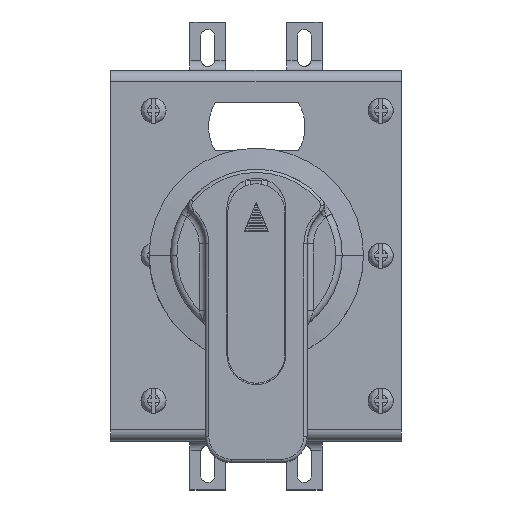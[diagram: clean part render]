
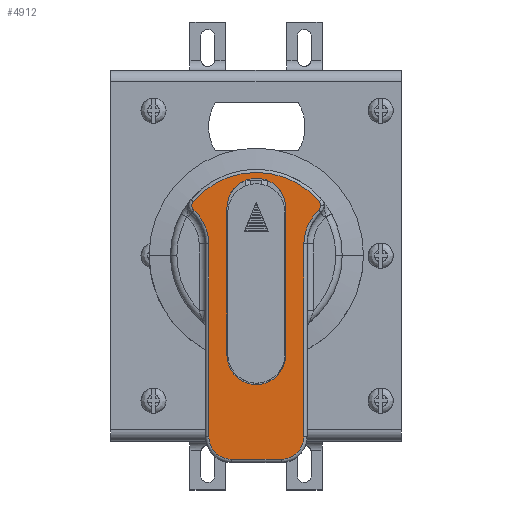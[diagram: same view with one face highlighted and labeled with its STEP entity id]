
A CAD part, top view. The second image highlights one B-rep face of the part: STEP entity #4912.
In plain terms, the highlighted planar face has unit normal (0, 0, 1) as drawn and (0, 1, 0) by its records, which use the part's own axes.
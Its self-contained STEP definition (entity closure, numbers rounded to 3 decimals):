
#319 = VERTEX_POINT ( 'NONE', #4780 ) ;
#898 = VERTEX_POINT ( 'NONE', #47509 ) ;
#1184 = DIRECTION ( 'NONE',  ( -1., 0., 0. ) ) ;
#1442 = EDGE_CURVE ( 'NONE', #19032, #53586, #57889, .T. ) ;
#1492 = CIRCLE ( 'NONE', #9303, 9.1 ) ;
#1628 = CIRCLE ( 'NONE', #57181, 2. ) ;
#2223 = CARTESIAN_POINT ( 'NONE',  ( -15.34, 33., 18. ) ) ;
#2305 = CARTESIAN_POINT ( 'NONE',  ( 0., 33., 0. ) ) ;
#2321 = DIRECTION ( 'NONE',  ( -0.741, 0., 0.672 ) ) ;
#2386 = VERTEX_POINT ( 'NONE', #39430 ) ;
#2849 = CARTESIAN_POINT ( 'NONE',  ( 31.05, 33., -9.1 ) ) ;
#3315 = ORIENTED_EDGE ( 'NONE', *, *, #7106, .F. ) ;
#4169 = CARTESIAN_POINT ( 'NONE',  ( -14.793, 33., 19.948 ) ) ;
#4320 = AXIS2_PLACEMENT_3D ( 'NONE', #28795, #66349, #12455 ) ;
#4780 = CARTESIAN_POINT ( 'NONE',  ( -16.637, 33., -19.522 ) ) ;
#4912 = ADVANCED_FACE ( 'NONE', ( #44085, #38891 ), #54872, .T. ) ;
#5842 = EDGE_CURVE ( 'NONE', #64636, #29807, #66541, .T. ) ;
#6953 = AXIS2_PLACEMENT_3D ( 'NONE', #68429, #42685, #63888 ) ;
#7054 = CARTESIAN_POINT ( 'NONE',  ( -15.34, 33., -20. ) ) ;
#7106 = EDGE_CURVE ( 'NONE', #57397, #57905, #23715, .T. ) ;
#7328 = B_SPLINE_CURVE_WITH_KNOTS ( 'NONE', 3,
 ( #24320, #66756, #19126, #4169, #67097, #62916 ),
 .UNSPECIFIED., .F., .F.,
 ( 4, 1, 1, 4 ),
 ( 0., 0.333, 0.667, 1. ),
 .UNSPECIFIED. ) ;
#7579 = EDGE_LOOP ( 'NONE', ( #11355, #50632, #16878, #59234, #14295, #50325, #38010, #56984, #60127, #35349, #22281, #58580 ) ) ;
#8876 = VECTOR ( 'NONE', #66123, 1000. ) ;
#9303 = AXIS2_PLACEMENT_3D ( 'NONE', #56457, #45676, #13691 ) ;
#9361 = CARTESIAN_POINT ( 'NONE',  ( 31.05, 33., -9.1 ) ) ;
#10613 = CARTESIAN_POINT ( 'NONE',  ( -13.859, 33., -19.344 ) ) ;
#11355 = ORIENTED_EDGE ( 'NONE', *, *, #41408, .F. ) ;
#11756 = CARTESIAN_POINT ( 'NONE',  ( -3.49, 33., 14.75 ) ) ;
#12455 = DIRECTION ( 'NONE',  ( 1., 0., 0. ) ) ;
#13299 = VERTEX_POINT ( 'NONE', #16008 ) ;
#13691 = DIRECTION ( 'NONE',  ( 0., 0., -1. ) ) ;
#14088 = ORIENTED_EDGE ( 'NONE', *, *, #60573, .F. ) ;
#14295 = ORIENTED_EDGE ( 'NONE', *, *, #46060, .F. ) ;
#14420 = AXIS2_PLACEMENT_3D ( 'NONE', #14991, #36192, #57401 ) ;
#14447 = DIRECTION ( 'NONE',  ( 0., -1., 0. ) ) ;
#14537 = CARTESIAN_POINT ( 'NONE',  ( 31.05, 33., 9.1 ) ) ;
#14991 = CARTESIAN_POINT ( 'NONE',  ( -15.34, 33., -18. ) ) ;
#15029 = CARTESIAN_POINT ( 'NONE',  ( -3.49, 33., 14.75 ) ) ;
#15097 = AXIS2_PLACEMENT_3D ( 'NONE', #2305, #15765, #51908 ) ;
#15765 = DIRECTION ( 'NONE',  ( 0., -1., 0. ) ) ;
#16008 = CARTESIAN_POINT ( 'NONE',  ( 56.35, 33., -14.75 ) ) ;
#16878 = ORIENTED_EDGE ( 'NONE', *, *, #45127, .F. ) ;
#17384 = LINE ( 'NONE', #38588, #40389 ) ;
#17883 = AXIS2_PLACEMENT_3D ( 'NONE', #2223, #40122, #29674 ) ;
#19032 = VERTEX_POINT ( 'NONE', #62999 ) ;
#19126 = CARTESIAN_POINT ( 'NONE',  ( -14.281, 33., 19.73 ) ) ;
#20386 = VECTOR ( 'NONE', #32478, 1000. ) ;
#20593 = DIRECTION ( 'NONE',  ( 1., 0., 0. ) ) ;
#21058 = EDGE_CURVE ( 'NONE', #13299, #53586, #63318, .T. ) ;
#21209 = DIRECTION ( 'NONE',  ( 0., 1., 0. ) ) ;
#21586 = DIRECTION ( 'NONE',  ( 0., 1., 0. ) ) ;
#22281 = ORIENTED_EDGE ( 'NONE', *, *, #21058, .F. ) ;
#22940 = EDGE_LOOP ( 'NONE', ( #3315, #14088, #30005, #32030 ) ) ;
#23001 = DIRECTION ( 'NONE',  ( 0., 1., 0. ) ) ;
#23044 = EDGE_CURVE ( 'NONE', #13299, #23573, #49479, .T. ) ;
#23302 = AXIS2_PLACEMENT_3D ( 'NONE', #61565, #35837, #34450 ) ;
#23573 = VERTEX_POINT ( 'NONE', #63022 ) ;
#23715 = LINE ( 'NONE', #2849, #8876 ) ;
#24320 = CARTESIAN_POINT ( 'NONE',  ( -13.855, 33., 19.34 ) ) ;
#24512 = VERTEX_POINT ( 'NONE', #14537 ) ;
#25549 = CARTESIAN_POINT ( 'NONE',  ( 63.35, 33., 7.75 ) ) ;
#25572 = DIRECTION ( 'NONE',  ( -0.649, 0., -0.761 ) ) ;
#27085 = CARTESIAN_POINT ( 'NONE',  ( -13.855, 33., 19.34 ) ) ;
#28795 = CARTESIAN_POINT ( 'NONE',  ( 0., 33., 0. ) ) ;
#28807 = EDGE_CURVE ( 'NONE', #64636, #63770, #63342, .T. ) ;
#29674 = DIRECTION ( 'NONE',  ( 0., 0., 1. ) ) ;
#29807 = VERTEX_POINT ( 'NONE', #27085 ) ;
#30005 = ORIENTED_EDGE ( 'NONE', *, *, #66039, .F. ) ;
#31288 = EDGE_CURVE ( 'NONE', #55005, #49269, #1628, .T. ) ;
#32030 = ORIENTED_EDGE ( 'NONE', *, *, #41634, .F. ) ;
#32478 = DIRECTION ( 'NONE',  ( 0., 0., -1. ) ) ;
#33096 = DIRECTION ( 'NONE',  ( 0., 0., -1. ) ) ;
#33529 = EDGE_CURVE ( 'NONE', #2386, #319, #45028, .T. ) ;
#34450 = DIRECTION ( 'NONE',  ( 0., 0., -1. ) ) ;
#35349 = ORIENTED_EDGE ( 'NONE', *, *, #1442, .T. ) ;
#35837 = DIRECTION ( 'NONE',  ( 0., -1., 0. ) ) ;
#36192 = DIRECTION ( 'NONE',  ( 0., -1., 0. ) ) ;
#36574 = AXIS2_PLACEMENT_3D ( 'NONE', #47466, #23001, #33096 ) ;
#38010 = ORIENTED_EDGE ( 'NONE', *, *, #5842, .F. ) ;
#38588 = CARTESIAN_POINT ( 'NONE',  ( -14.75, 33., 9.1 ) ) ;
#38671 = CARTESIAN_POINT ( 'NONE',  ( -14.75, 33., -9.1 ) ) ;
#38891 = FACE_BOUND ( 'NONE', #22940, .T. ) ;
#39342 = EDGE_CURVE ( 'NONE', #19032, #63770, #41420, .T. ) ;
#39430 = CARTESIAN_POINT ( 'NONE',  ( -16.637, 33., 19.522 ) ) ;
#40122 = DIRECTION ( 'NONE',  ( 0., -1., 0. ) ) ;
#40389 = VECTOR ( 'NONE', #55255, 1000. ) ;
#41226 = CARTESIAN_POINT ( 'NONE',  ( -15.34, 33., -18. ) ) ;
#41408 = EDGE_CURVE ( 'NONE', #49269, #23573, #57051, .T. ) ;
#41420 = CIRCLE ( 'NONE', #6953, 7. ) ;
#41634 = EDGE_CURVE ( 'NONE', #57905, #898, #1492, .T. ) ;
#42685 = DIRECTION ( 'NONE',  ( 0., -1., 0. ) ) ;
#43673 = AXIS2_PLACEMENT_3D ( 'NONE', #54217, #21586, #2321 ) ;
#44085 = FACE_OUTER_BOUND ( 'NONE', #7579, .T. ) ;
#44217 = VERTEX_POINT ( 'NONE', #46777 ) ;
#44366 = CIRCLE ( 'NONE', #14420, 2. ) ;
#45028 = CIRCLE ( 'NONE', #15097, 25.65 ) ;
#45127 = EDGE_CURVE ( 'NONE', #319, #55005, #44366, .T. ) ;
#45676 = DIRECTION ( 'NONE',  ( 0., 1., 0. ) ) ;
#46060 = EDGE_CURVE ( 'NONE', #44217, #2386, #46726, .T. ) ;
#46726 = CIRCLE ( 'NONE', #17883, 2. ) ;
#46777 = CARTESIAN_POINT ( 'NONE',  ( -15.34, 33., 20. ) ) ;
#46793 = AXIS2_PLACEMENT_3D ( 'NONE', #53165, #21209, #59072 ) ;
#47466 = CARTESIAN_POINT ( 'NONE',  ( -3.49, 33., 28.75 ) ) ;
#47509 = CARTESIAN_POINT ( 'NONE',  ( -14.75, 33., 9.1 ) ) ;
#49269 = VERTEX_POINT ( 'NONE', #10613 ) ;
#49479 = LINE ( 'NONE', #54024, #62112 ) ;
#50325 = ORIENTED_EDGE ( 'NONE', *, *, #53758, .F. ) ;
#50632 = ORIENTED_EDGE ( 'NONE', *, *, #31288, .F. ) ;
#51908 = DIRECTION ( 'NONE',  ( -0.649, 0., 0.761 ) ) ;
#53165 = CARTESIAN_POINT ( 'NONE',  ( 31.05, 33., 0. ) ) ;
#53586 = VERTEX_POINT ( 'NONE', #55619 ) ;
#53758 = EDGE_CURVE ( 'NONE', #29807, #44217, #7328, .T. ) ;
#54024 = CARTESIAN_POINT ( 'NONE',  ( 56.35, 33., -14.75 ) ) ;
#54217 = CARTESIAN_POINT ( 'NONE',  ( -3.49, 33., -28.75 ) ) ;
#54872 = PLANE ( 'NONE',  #4320 ) ;
#55005 = VERTEX_POINT ( 'NONE', #7054 ) ;
#55255 = DIRECTION ( 'NONE',  ( 1., 0., 0. ) ) ;
#55619 = CARTESIAN_POINT ( 'NONE',  ( 63.35, 33., -7.75 ) ) ;
#56457 = CARTESIAN_POINT ( 'NONE',  ( -14.75, 33., 0. ) ) ;
#56984 = ORIENTED_EDGE ( 'NONE', *, *, #28807, .T. ) ;
#57051 = CIRCLE ( 'NONE', #43673, 14. ) ;
#57181 = AXIS2_PLACEMENT_3D ( 'NONE', #41226, #14447, #25572 ) ;
#57397 = VERTEX_POINT ( 'NONE', #9361 ) ;
#57401 = DIRECTION ( 'NONE',  ( -0.649, 0., -0.761 ) ) ;
#57889 = LINE ( 'NONE', #25549, #20386 ) ;
#57905 = VERTEX_POINT ( 'NONE', #38671 ) ;
#58580 = ORIENTED_EDGE ( 'NONE', *, *, #23044, .T. ) ;
#59072 = DIRECTION ( 'NONE',  ( 0., 0., 1. ) ) ;
#59234 = ORIENTED_EDGE ( 'NONE', *, *, #33529, .F. ) ;
#60084 = CIRCLE ( 'NONE', #46793, 9.1 ) ;
#60127 = ORIENTED_EDGE ( 'NONE', *, *, #39342, .F. ) ;
#60573 = EDGE_CURVE ( 'NONE', #24512, #57397, #60084, .T. ) ;
#61565 = CARTESIAN_POINT ( 'NONE',  ( 56.35, 33., -7.75 ) ) ;
#62112 = VECTOR ( 'NONE', #1184, 1000. ) ;
#62916 = CARTESIAN_POINT ( 'NONE',  ( -15.34, 33., 20. ) ) ;
#62999 = CARTESIAN_POINT ( 'NONE',  ( 63.35, 33., 7.75 ) ) ;
#63022 = CARTESIAN_POINT ( 'NONE',  ( -3.49, 33., -14.75 ) ) ;
#63318 = CIRCLE ( 'NONE', #23302, 7. ) ;
#63342 = LINE ( 'NONE', #15029, #64750 ) ;
#63670 = CARTESIAN_POINT ( 'NONE',  ( 56.35, 33., 14.75 ) ) ;
#63770 = VERTEX_POINT ( 'NONE', #63670 ) ;
#63888 = DIRECTION ( 'NONE',  ( 1., 0., 0. ) ) ;
#64636 = VERTEX_POINT ( 'NONE', #11756 ) ;
#64750 = VECTOR ( 'NONE', #20593, 1000. ) ;
#66039 = EDGE_CURVE ( 'NONE', #898, #24512, #17384, .T. ) ;
#66123 = DIRECTION ( 'NONE',  ( -1., 0., 0. ) ) ;
#66349 = DIRECTION ( 'NONE',  ( 0., 1., 0. ) ) ;
#66541 = CIRCLE ( 'NONE', #36574, 14. ) ;
#66756 = CARTESIAN_POINT ( 'NONE',  ( -13.993, 33., 19.489 ) ) ;
#67097 = CARTESIAN_POINT ( 'NONE',  ( -15.153, 33., 19.998 ) ) ;
#68429 = CARTESIAN_POINT ( 'NONE',  ( 56.35, 33., 7.75 ) ) ;
